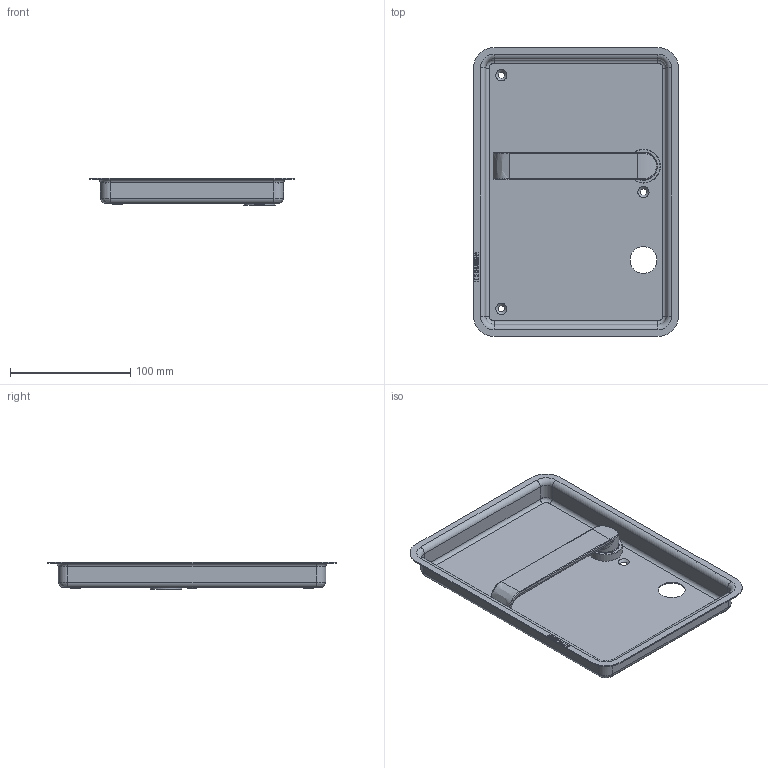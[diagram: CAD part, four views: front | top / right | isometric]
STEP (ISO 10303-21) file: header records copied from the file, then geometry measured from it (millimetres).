
FILE_DESCRIPTION(/* description */ (''),/* implementation_level */ '2;1');
FILE_NAME(/* name */ 'C:\ADSK_DMS_WS\Designs\Vorschläge\Loc Schalen\Muschel Serie 3\S3.20.D1Links\Heusser-Muschel S3.20.D1.278L.stp',/* time_stamp */ '2020-11-21T10:52:12+01:00',/* author */ ('gm'),/* organization */ (''),/* preprocessor_version */ 'ST-DEVELOPER v16.5',/* originating_system */ 'Autodesk Inventor 2017',/* authorisation */ '');
FILE_SCHEMA (('AUTOMOTIVE_DESIGN { 1 0 10303 214 3 1 1 }'));
Length unit declared in the file: millimetre
Products named in the file (1): S3.20.D1.L
Bounding box: 170 x 240 x 23 mm (x, y, z)
Volume: 72404.9 mm3; surface area: 115973.6 mm2
Topology: 1 solids, 2 shells, 305 faces, 760 edges, 482 vertices
Faces by surface type: plane 130, bspline 82, cylinder 62, cone 16, torus 15
Full cylindrical faces by diameter (mm): 1.7 x2, 6 x1, 14.2 x1, 16 x3, 18 x1, 19 x1, 19.1 x1, 22 x1, 22.3 x1, 23 x1, 23.2 x1, 24 x1, 25 x1, 26 x1, 28 x1
Entity records: 10162 total; most frequent: CARTESIAN_POINT 3022, ORIENTED_EDGE 1432, DIRECTION 1258, EDGE_CURVE 716, VERTEX_POINT 476, AXIS2_PLACEMENT_3D 432, LINE 394, VECTOR 394
